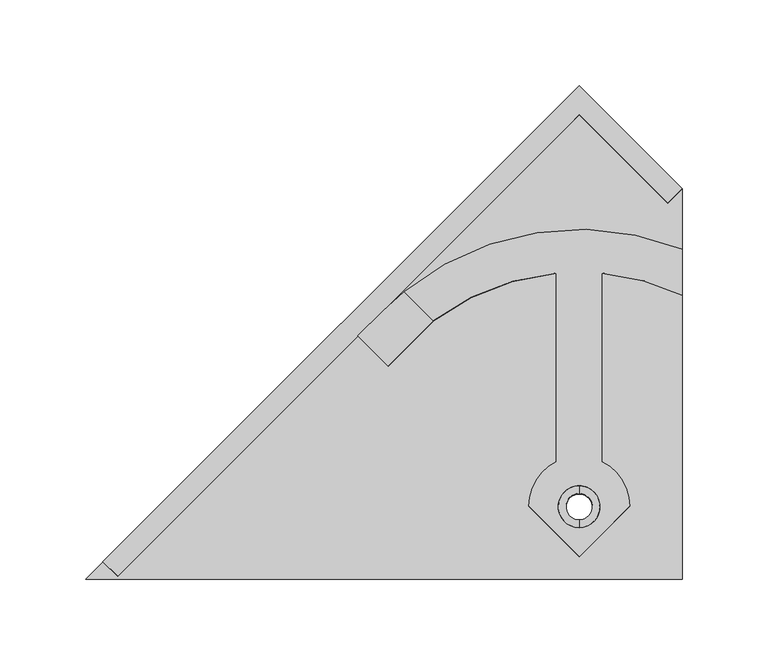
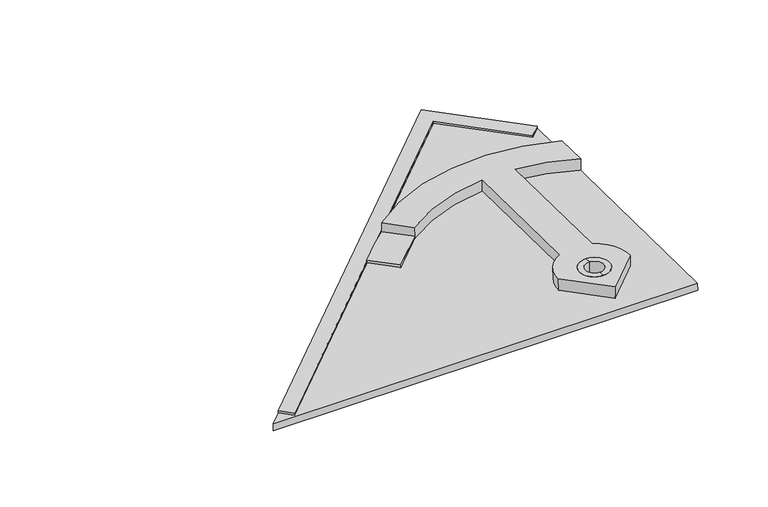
"""IFC4 building model written with IfcOpenShell, lengths in millimetres: proxy geometry, Roofing_Panels_SunStyle_Tuile_Tuile-Coin-Bas-Petit-Droit : Coin Bas Petit Droit - Noir."""

import ifcopenshell
import ifcopenshell.guid

model = None  # the IFC model being written
_history = None  # IfcOwnerHistory: only IFC2X3 demands one
_inside = {}  # id of a spatial element -> (the spatial element, [elements in it])
_under = {}  # id of a project, library or spatial element -> (it, [spatial elements below it])
_declared = {}  # id of a project -> (the project, [libraries it declares])
_typed = {}  # id of a type object -> (the type object, [elements of that type])
_made_of = {}  # id of a material, layer set ... -> (it, [elements and type objects made of it])


def new_model(schema):
    """Start an empty IFC model of exactly this schema.

    Asked for "IFC4X3", IfcOpenShell would pick the latest addendum, in which some entities
    have other attributes; the version numbers below select the first issue.
    IFC2X3 requires an IfcOwnerHistory on every rooted entity: one is made here for all.
    """
    global model, _history
    if schema == "IFC4X3":
        model = ifcopenshell.file(schema_version=(4, 3, 0, 0))
    else:
        model = ifcopenshell.file(schema=schema)
    _inside.clear()
    _under.clear()
    _declared.clear()
    _typed.clear()
    _made_of.clear()
    _history = None
    if model.schema == "IFC2X3":
        org = make("IfcOrganization", Name="unknown")
        user = make(
            "IfcPersonAndOrganization",
            ThePerson=make("IfcPerson", FamilyName="unknown"),
            TheOrganization=org,
        )
        app = make(
            "IfcApplication",
            ApplicationDeveloper=org,
            Version="unknown",
            ApplicationFullName="unknown",
            ApplicationIdentifier="unknown",
        )
        _history = make(
            "IfcOwnerHistory",
            OwningUser=user,
            OwningApplication=app,
            ChangeAction="ADDED",
            CreationDate=0,
        )
    return model


def make(cls, **values):
    """One entity of the class cls with the attributes given. An attribute that is None is left unset."""
    return model.create_entity(
        cls, **{name: value for name, value in values.items() if value is not None}
    )


def rooted(cls, **values):
    """An entity with a GlobalId (a new one), such as an element, a storey or a relation."""
    return make(cls, GlobalId=ifcopenshell.guid.new(), OwnerHistory=_history, **values)


def si_unit(unit_type, name, prefix=None):
    """IfcSIUnit, for example si_unit("LENGTHUNIT", "METRE", prefix="MILLI")."""
    return make("IfcSIUnit", UnitType=unit_type, Prefix=prefix, Name=name)


def assignment(units):
    """IfcUnitAssignment: the units of a project."""
    return None if units is None else make("IfcUnitAssignment", Units=units)


def point(xyz):
    """IfcCartesianPoint."""
    return None if xyz is None else make("IfcCartesianPoint", Coordinates=xyz)


def direction(xyz):
    """IfcDirection."""
    return None if xyz is None else make("IfcDirection", DirectionRatios=xyz)


def frame(location, z_axis=None, x_axis=None):
    """IfcAxis2Placement3D, a coordinate frame: its origin and axes. An axis left out is left unset."""
    return make(
        "IfcAxis2Placement3D",
        Location=point(location),
        Axis=direction(z_axis),
        RefDirection=direction(x_axis),
    )


def frame_2d(location, x_axis=None):
    """IfcAxis2Placement2D, a coordinate frame in the plane: its origin and x axis."""
    return make(
        "IfcAxis2Placement2D", Location=point(location), RefDirection=direction(x_axis)
    )


def origin():
    """The frame at (0, 0, 0) with its axes left unset."""
    return frame((0.0, 0.0, 0.0))


def place(relative_to, where):
    """IfcLocalPlacement: puts the frame where relative to a parent placement (None: the world)."""
    return make(
        "IfcLocalPlacement", PlacementRelTo=relative_to, RelativePlacement=where
    )


def context(
    kind, dimensions, precision=None, world=None, true_north=None, identifier=None
):
    """IfcGeometricRepresentationContext, for example the 3D "Model" context."""
    return make(
        "IfcGeometricRepresentationContext",
        ContextIdentifier=identifier,
        ContextType=kind,
        CoordinateSpaceDimension=dimensions,
        Precision=precision,
        WorldCoordinateSystem=world,
        TrueNorth=true_north,
    )


def project(units=None, contexts=None):
    """IfcProject with its units and contexts."""
    return rooted(
        "IfcProject",
        Name="project",
        RepresentationContexts=contexts,
        UnitsInContext=assignment(units),
    )


def spatial(cls, under=None, at=None, **own):
    """A site, building, storey or space (cls), placed at a placement, below another one or the project."""
    s = rooted(cls, ObjectPlacement=at, **own)
    if under is not None:
        _under.setdefault(under.id(), (under, []))[1].append(s)
    return s


def polyline(points):
    """IfcPolyline through the points."""
    return make("IfcPolyline", Points=[point(p) for p in points])


def circle_curve(where, radius):
    """IfcCircle in the frame where."""
    return make("IfcCircle", Position=where, Radius=radius)


def trimmed(basis, trim1, trim2, sense, master):
    """IfcTrimmedCurve: the piece of a basis curve between two trims."""
    return make(
        "IfcTrimmedCurve",
        BasisCurve=basis,
        Trim1=trim1,
        Trim2=trim2,
        SenseAgreement=sense,
        MasterRepresentation=master,
    )


def segment(curve, same_sense, transition):
    """IfcCompositeCurveSegment."""
    return make(
        "IfcCompositeCurveSegment",
        Transition=transition,
        SameSense=same_sense,
        ParentCurve=curve,
    )


def composite_curve(segments, self_intersect=None):
    """IfcCompositeCurve: segments joined end to end."""
    return make("IfcCompositeCurve", Segments=segments, SelfIntersect=self_intersect)


def outline(outer, holes=None, kind="AREA"):
    """IfcArbitraryClosedProfileDef: a profile drawn as a closed curve; with holes, ...WithVoids."""
    if holes is None:
        return make("IfcArbitraryClosedProfileDef", ProfileType=kind, OuterCurve=outer)
    return make(
        "IfcArbitraryProfileDefWithVoids",
        ProfileType=kind,
        OuterCurve=outer,
        InnerCurves=holes,
    )


def extrude(swept, where, along, depth):
    """IfcExtrudedAreaSolid: the profile swept, set in the frame where, extruded along a direction by depth."""
    return make(
        "IfcExtrudedAreaSolid",
        SweptArea=swept,
        Position=where,
        ExtrudedDirection=direction(along),
        Depth=depth,
    )


def shape(context_of_items, identifier, shape_type, items):
    """IfcShapeRepresentation: the items that make up one representation, for example the "Body"."""
    return make(
        "IfcShapeRepresentation",
        ContextOfItems=context_of_items,
        RepresentationIdentifier=identifier,
        RepresentationType=shape_type,
        Items=items,
    )


def source(mapping_origin, context_of_items, identifier, shape_type, items):
    """IfcRepresentationMap: a shape defined once, which mapped items show again and again."""
    return make(
        "IfcRepresentationMap",
        MappingOrigin=mapping_origin,
        MappedRepresentation=shape(context_of_items, identifier, shape_type, items),
    )


def transform(
    local_origin,
    x_axis=None,
    y_axis=None,
    z_axis=None,
    scale=None,
    scale2=None,
    scale3=None,
    uniform=True,
):
    """IfcCartesianTransformationOperator3D, or its non-uniform kind. x_axis, y_axis, z_axis: its Axis1, 2, 3."""
    if uniform:
        return make(
            "IfcCartesianTransformationOperator3D",
            Axis1=direction(x_axis),
            Axis2=direction(y_axis),
            LocalOrigin=point(local_origin),
            Scale=scale,
            Axis3=direction(z_axis),
        )
    return make(
        "IfcCartesianTransformationOperator3DnonUniform",
        Axis1=direction(x_axis),
        Axis2=direction(y_axis),
        LocalOrigin=point(local_origin),
        Scale=scale,
        Axis3=direction(z_axis),
        Scale2=scale2,
        Scale3=scale3,
    )


def mapped(mapping_source, mapping_target):
    """IfcMappedItem: shows the shape of a source again, moved by a transform."""
    return make(
        "IfcMappedItem", MappingSource=mapping_source, MappingTarget=mapping_target
    )


def made_of(thing, what):
    """Note that an element or type object is made of a material, layer set ...; save() writes the relation."""
    if what is not None:
        _made_of.setdefault(what.id(), (what, []))[1].append(thing)
    return thing


def element(
    cls,
    number,
    at=None,
    inside=None,
    cuts=None,
    type_object=None,
    material=None,
    context=None,
    identifier="Body",
    shape_type=None,
    held_by="IfcProductDefinitionShape",
    body=None,
    shapes=None,
    **own,
):
    """One element of the class cls, such as IfcWall. Its Tag is "e" and its number.

    at: its placement. inside: the storey or other place that contains it. cuts: it is an
    opening in that element (IfcRelVoidsElement). A single representation is given by context,
    identifier, shape_type and body (its items); several are given by shapes. held_by: the class
    of the entity that holds the representations. save() writes the other relations.
    """
    e = rooted(cls, Tag="e%d" % number, ObjectPlacement=at, **own)
    if body is not None:
        shapes = [shape(context, identifier, shape_type, body)]
    if shapes is not None:
        e.Representation = make(held_by, Representations=shapes)
    if inside is not None:
        _inside.setdefault(inside.id(), (inside, []))[1].append(e)
    if cuts is not None:
        rooted(
            "IfcRelVoidsElement", RelatingBuildingElement=cuts, RelatedOpeningElement=e
        )
    if type_object is not None:
        _typed.setdefault(type_object.id(), (type_object, []))[1].append(e)
    return made_of(e, material)


def aggregate(whole, parts):
    """IfcRelAggregates: a whole, such as a stair, and the parts it consists of."""
    return rooted("IfcRelAggregates", RelatingObject=whole, RelatedObjects=parts)


def save(model, path):
    """Write the relations noted so far, then the file.

    IfcRelAggregates (storeys below a building ...), IfcRelContainedInSpatialStructure (elements
    in a storey), IfcRelDefinesByType, IfcRelAssociatesMaterial and IfcRelDeclares: one each for
    every whole, place, type object, material and project.
    """
    for whole, parts in _under.values():
        aggregate(whole, parts)
    for where, things in _inside.values():
        rooted(
            "IfcRelContainedInSpatialStructure",
            RelatedElements=things,
            RelatingStructure=where,
        )
    for kind, things in _typed.values():
        rooted("IfcRelDefinesByType", RelatedObjects=things, RelatingType=kind)
    for what, things in _made_of.values():
        rooted("IfcRelAssociatesMaterial", RelatedObjects=things, RelatingMaterial=what)
    for by, libraries in _declared.values():
        rooted("IfcRelDeclares", RelatingContext=by, RelatedDefinitions=libraries)
    model.write(path)


def plane_surface(at):
    """IfcPlane: the flat surface through the origin of the frame at, square to its z axis."""
    return make("IfcPlane", Position=at)


def cylinder_surface(at, radius):
    """IfcCylindricalSurface: all points at the distance radius from the z axis of the frame at."""
    return make("IfcCylindricalSurface", Position=at, Radius=radius)


def revolved_surface(curve, axis_point, axis_direction):
    """IfcSurfaceOfRevolution: the curve turned about the line through axis_point along axis_direction."""
    return make(
        "IfcSurfaceOfRevolution",
        SweptCurve=make("IfcArbitraryOpenProfileDef", ProfileType="CURVE", Curve=curve),
        AxisPosition=make("IfcAxis1Placement", Location=point(axis_point), Axis=direction(axis_direction)),
    )


def advanced_brep(points, edges, surfaces, faces):
    """IfcAdvancedBrep: a solid bounded by faces that lie on surfaces and meet in shared edges.

    An edge is (start, end): straight between two places in points (the first is 0);
    or (start, end, curve); or (start, end, curve, False) where it runs against its curve.
    A face is (place in surfaces, loops), or (place, loops, False) where it looks against
    its surface's normal. A loop lists edges by number (the first is 1), with a minus sign
    where the edge is run from its end to its start. The first loop is the outer one.
    """
    corners = [point(p) for p in points]
    vertices = [make("IfcVertexPoint", VertexGeometry=c) for c in corners]
    made = []
    for start, end, *more in edges:
        made.append(
            make(
                "IfcEdgeCurve",
                EdgeStart=vertices[start],
                EdgeEnd=vertices[end],
                EdgeGeometry=more[0] if more else make("IfcPolyline", Points=[corners[start], corners[end]]),
                SameSense=more[1] if len(more) > 1 else True,
            )
        )
    hull = []
    for where, loops, *sense in faces:
        bounds = []
        for j, loop in enumerate(loops):
            ring = [make("IfcOrientedEdge", EdgeElement=made[abs(k) - 1], Orientation=k > 0) for k in loop]
            bounds.append(
                make(
                    "IfcFaceOuterBound" if j == 0 else "IfcFaceBound",
                    Bound=make("IfcEdgeLoop", EdgeList=ring),
                    Orientation=True,
                )
            )
        hull.append(make("IfcAdvancedFace", Bounds=bounds, FaceSurface=surfaces[where], SameSense=sense[0] if sense else True))
    return make("IfcAdvancedBrep", Outer=make("IfcClosedShell", CfsFaces=hull))


def generic_models_06786041(model_context):
    return source(origin(), model_context, "Body", "SolidModel", [
        extrude(outline(polyline([(-1e-07, -12.0), (0.0, 0.0), (392.6049641, 0.0), (392.6168819, -84.9940404), (380.616882, -84.995723), (380.6066466, -12.0), (-1e-07, -12.0)])), frame((-277.6334177, 337.4278406, 10.6525475), z_axis=(0.0, 0.016745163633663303, 0.9998597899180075), x_axis=(0.7071563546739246, 0.7069580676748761, -0.01183978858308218)), (0.0, 0.0, 1.0), 1.5),
        advanced_brep(
        [(0.0, 361.8961325, 20.2441668), (0.0, 377.2289335, 19.9873805), (0.0, 381.7283021, 19.9120273), (0.0, 357.3967639, 20.31952), (0.0, 361.6282103, 4.2464102), (0.0, 376.9610105, 3.9896239), (0.0, 357.1288413, 4.3217634), (0.0, 381.4603795, 3.9142707)],
        [
            (0, 1, circle_curve(frame((0.0, 369.562533, 20.1157737), z_axis=(0.0, -0.016745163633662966, -0.9998597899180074), x_axis=(0.0, 0.9998597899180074, -0.016745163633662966)), 7.6674755)),
            (1, 2),
            (2, 3, circle_curve(frame((0.0, 369.562533, 20.1157737), z_axis=(0.0, 0.016745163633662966, 0.9998597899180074), x_axis=(0.0, 0.9998597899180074, -0.016745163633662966)), 12.1674751)),
            (3, 0),
            (1, 0, circle_curve(frame((0.0, 369.562533, 20.1157737), z_axis=(0.0, -0.016745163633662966, -0.9998597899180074), x_axis=(0.0, 0.9998597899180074, -0.016745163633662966)), 7.6674755)),
            (3, 2, circle_curve(frame((0.0, 369.562533, 20.1157737), z_axis=(0.0, 0.016745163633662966, 0.9998597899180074), x_axis=(0.0, 0.9998597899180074, -0.016745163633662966)), 12.1674751)),
            (4, 5, circle_curve(frame((0.0, 369.2946104, 4.118017), z_axis=(0.0, -0.016745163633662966, -0.9998597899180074), x_axis=(0.0, 0.9998597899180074, -0.016745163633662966)), 7.6674751)),
            (5, 1),
            (0, 4),
            (5, 4, circle_curve(frame((0.0, 369.2946104, 4.118017), z_axis=(0.0, -0.016745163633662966, -0.9998597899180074), x_axis=(0.0, 0.9998597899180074, -0.016745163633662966)), 7.6674751)),
            (6, 7, circle_curve(frame((0.0, 369.2946104, 4.118017), z_axis=(0.0, -0.016745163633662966, -0.9998597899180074), x_axis=(0.0, 0.9998597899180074, -0.016745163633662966)), 12.1674751)),
            (7, 5),
            (4, 6),
            (7, 6, circle_curve(frame((0.0, 369.2946104, 4.118017), z_axis=(0.0, -0.016745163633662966, -0.9998597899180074), x_axis=(0.0, 0.9998597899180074, -0.016745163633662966)), 12.1674751)),
            (2, 7),
            (6, 3),
        ],
        [
            plane_surface(frame((0.0, 369.562533, 20.1157737), z_axis=(0.0, 0.016745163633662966, 0.9998597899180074), x_axis=(0.0, 0.9998597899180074, -0.016745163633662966))),
            revolved_surface(polyline([(0.0, 377.2289330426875, 19.987380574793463), (0.0, 376.96101042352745, 3.989623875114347)]), (0.0, 369.562533, 20.1157737), (0.0, 0.016745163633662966, 0.9998597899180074)),
            plane_surface(frame((0.0, 369.2946104, 4.118017), z_axis=(0.0, -0.016745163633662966, -0.9998597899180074), x_axis=(0.0, 0.9998597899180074, -0.016745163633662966))),
            cylinder_surface(frame((0.0, 369.562533, 20.1157737), z_axis=(0.0, 0.016745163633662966, 0.9998597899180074), x_axis=(0.0, 0.9998597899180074, -0.016745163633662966)), 12.1674751),
        ],
        [
            (0, [[1, 2, 3, 4]]),
            (0, [[5, -4, 6, -2]]),
            (1, [[7, 8, -1, 9]]),
            (1, [[10, -9, -5, -8]]),
            (2, [[11, 12, -7, 13]]),
            (2, [[14, -13, -10, -12]]),
            (3, [[-3, 15, -11, 16]]),
            (3, [[-6, -16, -14, -15]]),
        ],
    ),
        extrude(outline(polyline([(245.4549697, 12.0003225), (185.3593204, -48.1037539), (-42.1659129, -48.1037539), (-42.1659129, 299.6615381), (245.4549697, 12.0003225)]), holes=[composite_curve([segment(trimmed(circle_curve(frame_2d((0.0, 12.0)), 12.0), [point((0.0, 24.0))], [point((0.0, 0.0))], True, "CARTESIAN"), True, "CONTINUOUS"), segment(trimmed(circle_curve(frame_2d((0.0, 12.0)), 12.0), [point((0.0, 0.0))], [point((0.0, 24.0))], True, "CARTESIAN"), True, "CONTINUOUS")], self_intersect=False)]), frame((12.0, 369.462062, 4.1152126), z_axis=(0.0, 0.01674516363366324, 0.9998597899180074), x_axis=(0.0, 0.9998597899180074, -0.01674516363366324)), (0.0, 0.0, 1.0), 6.0),
        advanced_brep(
        [(-128.9467134, 469.1477223, 10.9469178), (-111.2690438, 451.4725314, 11.2429333), (-84.9431983, 477.7946858, 10.8021027), (-102.0275718, 494.8742688, 10.5160622), (-114.2509691, 483.8393459, 10.7008697), (-128.9467134, 469.1058594, 8.4472683), (-114.2509691, 483.797483, 8.2012202), (-102.0275718, 494.8324058, 8.0164127), (60.1037539, 519.5218584, 7.6029258), (60.1037539, 492.7956258, 8.0505237), (13.3, 505.6435355, 7.8353532), (13.3, 395.7666527, 9.6755176), (29.3894281, 369.562533, 10.1143714), (0.0, 340.1772257, 10.6065021), (-29.3894281, 369.562533, 10.1143714), (-13.3, 395.7666527, 9.6755176), (-13.3, 505.6435355, 7.8353532), (-84.944396, 477.7516253, 8.3024733), (-111.2690438, 451.4306685, 8.7432838), (12.0, 369.562533, 10.1143714), (-12.0, 369.562533, 10.1143714), (60.1037539, 519.6893101, 17.6015237), (-102.0275718, 494.9998575, 18.0150106), (-84.944396, 477.9190769, 18.3010712), (-13.3, 505.8109871, 17.8339511), (-13.3, 395.9341043, 19.6741155), (-29.3894281, 369.7299846, 20.1129693), (0.0, 340.3446773, 20.6051), (29.3894281, 369.7299846, 20.1129693), (13.3, 395.9341043, 19.6741155), (13.3, 505.8109871, 17.8339511), (60.1037539, 492.9630774, 18.0491216), (12.0, 369.7299846, 20.1129693), (-12.0, 369.7299846, 20.1129693)],
        [
            (0, 1),
            (1, 2),
            (2, 3),
            (3, 4, circle_curve(frame((0.0, 369.6043959, 12.6140208), z_axis=(0.0, 0.01674516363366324, 0.9998597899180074), x_axis=(-1.0, 0.0, 0.0)), 161.57527)),
            (4, 0),
            (5, 6),
            (6, 7, circle_curve(frame((0.0, 369.562533, 10.1143714), z_axis=(0.0, -0.01674516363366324, -0.9998597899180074), x_axis=(-1.0, 0.0, 0.0)), 161.57527)),
            (7, 8, circle_curve(frame((0.0, 369.562533, 10.1143714), z_axis=(0.0, -0.01674516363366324, -0.9998597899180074), x_axis=(-1.0, 0.0, 0.0)), 161.57527)),
            (8, 9),
            (9, 10, circle_curve(frame((0.0, 365.5555068, 10.1814791), z_axis=(0.0, 0.01674516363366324, 0.9998597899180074), x_axis=(-1.0, 0.0, 0.0)), 140.737522)),
            (10, 11),
            (11, 12, circle_curve(frame((0.0, 369.562533, 10.1143714), z_axis=(0.0, -0.01674516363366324, -0.9998597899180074), x_axis=(-1.0, 0.0, 0.0)), 29.3894281)),
            (12, 13),
            (13, 14),
            (14, 15, circle_curve(frame((0.0, 369.562533, 10.1143714), z_axis=(0.0, -0.01674516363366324, -0.9998597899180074), x_axis=(-1.0, 0.0, 0.0)), 29.3894281)),
            (15, 16),
            (16, 17, circle_curve(frame((0.0, 365.5555068, 10.1814791), z_axis=(0.0, 0.01674516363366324, 0.9998597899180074), x_axis=(-1.0, 0.0, 0.0)), 140.737522)),
            (17, 18),
            (18, 5),
            (19, 20, circle_curve(frame((0.0, 369.562533, 10.1143714), z_axis=(0.0, 0.01674516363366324, 0.9998597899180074), x_axis=(-1.0, 0.0, 0.0)), 12.0)),
            (20, 19, circle_curve(frame((0.0, 369.562533, 10.1143714), z_axis=(0.0, 0.01674516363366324, 0.9998597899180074), x_axis=(-1.0, 0.0, 0.0)), 12.0)),
            (4, 6),
            (5, 0),
            (18, 1),
            (3, 7),
            (17, 2),
            (21, 22, circle_curve(frame((0.0, 369.7299846, 20.1129693), z_axis=(0.0, 0.01674516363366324, 0.9998597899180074), x_axis=(-1.0, 0.0, 0.0)), 161.57527)),
            (22, 23),
            (23, 24, circle_curve(frame((0.0, 365.7229584, 20.180077), z_axis=(0.0, -0.01674516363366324, -0.9998597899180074), x_axis=(-1.0, 0.0, 0.0)), 140.737522)),
            (24, 25),
            (25, 26, circle_curve(frame((0.0, 369.7299846, 20.1129693), z_axis=(0.0, 0.01674516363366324, 0.9998597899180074), x_axis=(-1.0, 0.0, 0.0)), 29.3894281)),
            (26, 27),
            (27, 28),
            (28, 29, circle_curve(frame((0.0, 369.7299846, 20.1129693), z_axis=(0.0, 0.01674516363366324, 0.9998597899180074), x_axis=(-1.0, 0.0, 0.0)), 29.3894281)),
            (29, 30),
            (30, 31, circle_curve(frame((0.0, 365.7229584, 20.180077), z_axis=(0.0, -0.01674516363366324, -0.9998597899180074), x_axis=(-1.0, 0.0, 0.0)), 140.737522)),
            (31, 21),
            (32, 33, circle_curve(frame((0.0, 369.7299846, 20.1129693), z_axis=(0.0, -0.01674516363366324, -0.9998597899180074), x_axis=(-1.0, 0.0, 0.0)), 12.0)),
            (33, 32, circle_curve(frame((0.0, 369.7299846, 20.1129693), z_axis=(0.0, -0.01674516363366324, -0.9998597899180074), x_axis=(-1.0, 0.0, 0.0)), 12.0)),
            (29, 11),
            (10, 30),
            (28, 12),
            (27, 13),
            (26, 14),
            (25, 15),
            (24, 16),
            (21, 8),
            (3, 22),
            (33, 20),
            (19, 32),
            (2, 23),
            (9, 31),
        ],
        [
            plane_surface(frame((0.0, 340.2190886, 13.1061516), z_axis=(0.0, 0.016745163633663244, 0.9998597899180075), x_axis=(0.7071067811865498, -0.7070076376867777, 0.01184061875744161))),
            plane_surface(frame((0.0, 340.1772257, 10.6065021), z_axis=(0.0, -0.016745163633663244, -0.9998597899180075), x_axis=(-0.7071067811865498, 0.7070076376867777, -0.01184061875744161))),
            plane_surface(frame((-114.2509691, 483.8393459, 10.7008697), z_axis=(-0.7070572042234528, 0.7070572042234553, -0.011841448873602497), x_axis=(0.0, -0.016745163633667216, -0.9998597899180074))),
            plane_surface(frame((-128.9467134, 469.1477223, 10.9469178), z_axis=(-0.7071067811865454, -0.7070076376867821, 0.011840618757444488), x_axis=(0.0, -0.016745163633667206, -0.9998597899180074))),
            cylinder_surface(frame((0.0, 369.562533, 10.1143714), z_axis=(0.0, 0.01674516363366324, 0.9998597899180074), x_axis=(-1.0, 0.0, 0.0)), 161.57527),
            plane_surface(frame((-111.2690438, 451.4725314, 11.2429333), z_axis=(0.7071067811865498, -0.7070076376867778, 0.011840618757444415), x_axis=(0.0, -0.016745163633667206, -0.9998597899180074))),
            plane_surface(frame((-161.57527, 369.7299846, 20.1129693), z_axis=(0.0, 0.016745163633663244, 0.9998597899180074), x_axis=(0.0, -0.9998597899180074, 0.016745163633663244))),
            plane_surface(frame((13.3, 395.9341043, 19.6741155), z_axis=(1.0000000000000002, 0.0, 0.0), x_axis=(0.0, -0.016745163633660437, -0.9998597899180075))),
            cylinder_surface(frame((0.0, 369.562533, 10.1143714), z_axis=(0.0, 0.01674516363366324, 0.9998597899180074), x_axis=(-1.0, 0.0, 0.0)), 29.3894281),
            plane_surface(frame((0.0, 340.3446773, 20.6051), z_axis=(0.7071067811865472, -0.7070076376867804, 0.011840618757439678), x_axis=(0.0, -0.016745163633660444, -0.9998597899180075))),
            plane_surface(frame((-29.3894281, 369.7299846, 20.1129693), z_axis=(-0.7071067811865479, -0.7070076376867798, 0.01184061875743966), x_axis=(0.0, -0.016745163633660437, -0.9998597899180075))),
            plane_surface(frame((-13.3, 505.8109871, 17.8339511), z_axis=(-1.0000000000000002, 0.0, 0.0), x_axis=(0.0, -0.01674516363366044, -0.9998597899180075))),
            revolved_surface(polyline([(-12.0, 369.562533, 10.1143714), (-12.0, 369.72998463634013, 20.112969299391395)]), (0.0, 369.562533, 10.1143714), (0.0, -0.01674516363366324, -0.9998597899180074)),
            plane_surface(frame((-102.0275718, 494.9998575, 18.0150106), z_axis=(-0.7071067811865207, -0.7070076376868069, 0.011840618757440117), x_axis=(0.0, -0.01674516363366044, -0.9998597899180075))),
            revolved_surface(polyline([(-140.737522, 365.5555067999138, 10.18147909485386), (-140.737522, 365.722958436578, 20.18007701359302)]), (0.0, 365.5555068, 10.1814791), (0.0, -0.01674516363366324, -0.9998597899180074)),
            revolved_surface(polyline([(-140.737522, 365.5555068, 10.1814791), (-140.737522, 365.72295843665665, 20.180077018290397)]), (0.0, 365.5555068, 10.1814791), (0.0, -0.01674516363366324, -0.9998597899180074)),
            plane_surface(frame((60.1037539, 492.9630774, 18.0491216), z_axis=(1.0000000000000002, 0.0, 0.0), x_axis=(0.0, -0.01674516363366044, -0.9998597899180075))),
        ],
        [
            (0, [[1, 2, 3, 4, 5]]),
            (1, [[6, 7, 8, 9, 10, 11, 12, 13, 14, 15, 16, 17, 18, 19], [20, 21]]),
            (2, [[-5, 22, -6, 23]]),
            (3, [[-1, -23, -19, 24]]),
            (4, [[-4, 25, -7, -22]]),
            (5, [[-2, -24, -18, 26]]),
            (6, [[27, 28, 29, 30, 31, 32, 33, 34, 35, 36, 37], [38, 39]]),
            (7, [[-35, 40, -11, 41]]),
            (8, [[-34, 42, -12, -40]]),
            (9, [[-33, 43, -13, -42]]),
            (10, [[-32, 44, -14, -43]]),
            (8, [[-31, 45, -15, -44]]),
            (11, [[-30, 46, -16, -45]]),
            (4, [[-27, 47, -8, -25, 48]]),
            (12, [[-39, 49, -20, 50]]),
            (12, [[-38, -50, -21, -49]]),
            (13, [[-28, -48, -3, 51]]),
            (14, [[-36, -41, -10, 52]]),
            (15, [[-29, -51, -26, -17, -46]]),
            (16, [[-37, -52, -9, -47]]),
        ],
    ),
    ])


if __name__ == "__main__":
    model = new_model("IFC4")
    model_context = context("Model", 3, world=origin())
    ifc_project = project(units=[si_unit("LENGTHUNIT", "METRE", prefix="MILLI")], contexts=[model_context])
    site = spatial("IfcSite", under=ifc_project)
    building = spatial("IfcBuilding", under=site)
    placement = place(None, origin())
    generic_models_shape = generic_models_06786041(model_context)
    element("IfcBuildingElementProxy", 1, Name="Roofing_Panels_SunStyle_Tuile_Tuile-Coin-Bas-Petit-Droit : Coin Bas Petit Droit - Noir", ObjectType="Roofing_Panels_SunStyle_Tuile_Tuile-Coin-Bas-Petit-Droit : Coin Bas Petit Droit - Noir", at=placement, inside=building, context=model_context, shape_type="MappedRepresentation", body=[
        mapped(generic_models_shape, transform((0.0, 0.0, 0.0), x_axis=(1.0, 0.0, 0.0), y_axis=(0.0, 1.0, 0.0), z_axis=(0.0, 0.0, 1.0))),
    ])
    save(model, "model.ifc")
